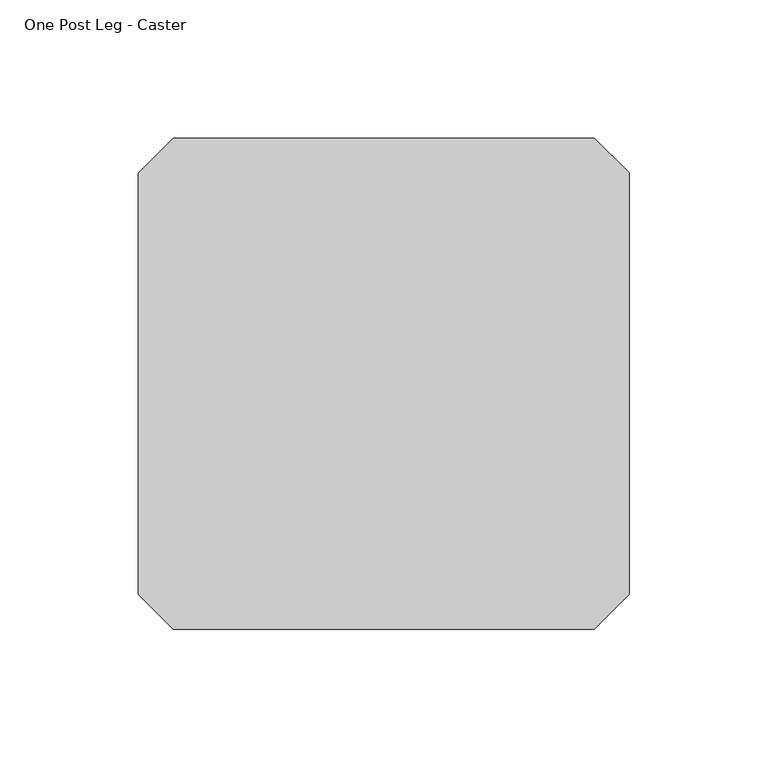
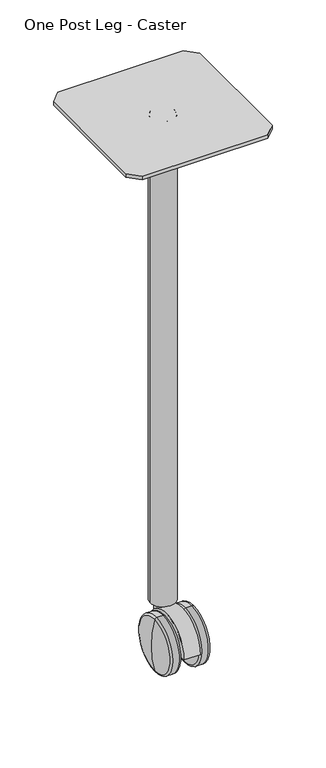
"""IFC4 building model written with IfcOpenShell, lengths in millimetres: furniture geometry, Steelcase - Groupwork - Table Leg - Post - Fixed : One Post Leg - Caster."""

from ifc_helpers import new_model, si_unit, point, frame, frame_2d, origin, place, context, project, spatial, polyline, circle_curve, ellipse_curve, trimmed, segment, composite_curve, outline, extrude, source, transform, mapped, element, save
from ifc_brep_helpers import plane_surface, cylinder_surface, revolved_surface, advanced_brep


def one_post_leg_caster_003eadf5(model_context):
    return source(origin(), model_context, "Body", "SolidModel", [
        extrude(outline(polyline([(88.8999907, -92.0423469), (76.2000028, -104.7423348), (-76.2000028, -104.7423348), (-88.9000032, -92.0423469), (-88.9000032, 60.3576588), (-76.2000028, 73.0576592), (76.2000028, 73.0576592), (88.8999907, 60.4556951), (88.8999907, -92.0423469)])), frame((0.0, 0.0, 690.4379814), z_axis=(0.0, 0.0, 1.0), x_axis=(1.0, 0.0, 0.0)), (0.0, 0.0, 1.0), 4.5060186),
        advanced_brep(
        [(-11.4827204, -39.9411002, 2.2405885), (-11.4827204, -39.9411002, 67.7519755), (-11.4827204, -39.9411002, 34.996282), (-13.6490633, -39.9411002, 0.0742455), (-13.6490633, -39.9411002, 69.9183184), (-21.5027885, -39.9411002, 0.0742455), (-21.5027885, -39.9411002, 69.9183184), (-24.0371277, -39.9411002, 1.9932216), (-24.0371277, -39.9411002, 67.9993423), (-28.027544, -39.9411002, 34.996282)],
        [
            (0, 1, circle_curve(frame((-11.4827204, -39.9411002, 34.996282), z_axis=(1.0, 0.0, 0.0), x_axis=(0.0, 0.0, 1.0)), 32.7556935)),
            (1, 2),
            (2, 0),
            (1, 0, circle_curve(frame((-11.4827204, -39.9411002, 34.996282), z_axis=(1.0, 0.0, 0.0), x_axis=(0.0, 0.0, 1.0)), 32.7556935)),
            (3, 4, circle_curve(frame((-13.6490633, -39.9411002, 34.996282), z_axis=(1.0, 0.0, 0.0), x_axis=(0.0, 0.0, 1.0)), 34.9220364)),
            (4, 1, circle_curve(frame((-13.6490633, -39.9411002, 67.7519755), z_axis=(0.0, 1.0, 0.0), x_axis=(1.0, 0.0, 0.0)), 2.1663429)),
            (0, 3, circle_curve(frame((-13.6490633, -39.9411002, 2.2405885), z_axis=(0.0, 1.0, 0.0), x_axis=(1.0, 0.0, 0.0)), 2.1663429)),
            (4, 3, circle_curve(frame((-13.6490633, -39.9411002, 34.996282), z_axis=(1.0, 0.0, 0.0), x_axis=(0.0, 0.0, 1.0)), 34.9220364)),
            (5, 6, circle_curve(frame((-21.5027885, -39.9411002, 34.996282), z_axis=(1.0, 0.0, 0.0), x_axis=(0.0, 0.0, 1.0)), 34.9220364)),
            (6, 4),
            (3, 5),
            (6, 5, circle_curve(frame((-21.5027885, -39.9411002, 34.996282), z_axis=(1.0, 0.0, 0.0), x_axis=(0.0, 0.0, 1.0)), 34.9220364)),
            (7, 8, circle_curve(frame((-24.0371277, -39.9411002, 34.996282), z_axis=(1.0, 0.0, 0.0), x_axis=(0.0, 0.0, 1.0)), 33.0030604)),
            (8, 6, circle_curve(frame((-21.5027885, -39.9411002, 67.285314), z_axis=(0.0, 1.0, 0.0), x_axis=(1.0, 0.0, 0.0)), 2.6330044)),
            (5, 7, circle_curve(frame((-21.5027885, -39.9411002, 2.7072499), z_axis=(0.0, 1.0, 0.0), x_axis=(1.0, 0.0, 0.0)), 2.6330044)),
            (8, 7, circle_curve(frame((-24.0371277, -39.9411002, 34.996282), z_axis=(1.0, 0.0, 0.0), x_axis=(0.0, 0.0, 1.0)), 33.0030604)),
            (9, 8, circle_curve(frame((80.0645768, -39.9411002, 38.6695822), z_axis=(0.0, 1.0, 0.0), x_axis=(1.0, 0.0, 0.0)), 108.1545178)),
            (7, 9, circle_curve(frame((80.0645768, -39.9411002, 31.3229818), z_axis=(0.0, 1.0, 0.0), x_axis=(1.0, 0.0, 0.0)), 108.1545178)),
        ],
        [
            plane_surface(frame((-11.4827204, -39.9411002, 34.996282), z_axis=(1.0, 0.0, 0.0), x_axis=(0.0, 0.0, 1.0))),
            revolved_surface(trimmed(ellipse_curve(frame((-13.6490633, -39.9411002, 67.7519755), z_axis=(0.0, -1.0, 0.0), x_axis=(1.0, 0.0, 0.0)), 2.1663429, 2.1663429), [point((-11.4827204, -39.9411002, 67.7519755))], [point((-13.6490633, -39.9411002, 69.9183184))], True, "CARTESIAN"), (-26.2760059, -39.9411002, 34.996282), (-1.0, 0.0, 0.0)),
            cylinder_surface(frame((-26.2760059, -39.9411002, 34.996282), z_axis=(-1.0, 0.0, 0.0), x_axis=(0.0, 0.0, 1.0)), 34.9220364),
            revolved_surface(trimmed(ellipse_curve(frame((-21.5027885, -39.9411002, 67.285314), z_axis=(0.0, -1.0, 0.0), x_axis=(1.0, 0.0, 0.0)), 2.6330044, 2.6330044), [point((-21.5027885, -39.9411002, 69.9183184))], [point((-24.0371277, -39.9411002, 67.9993423))], True, "CARTESIAN"), (-26.2760059, -39.9411002, 34.996282), (-1.0, 0.0, 0.0)),
            revolved_surface(trimmed(ellipse_curve(frame((80.0645768, -39.9411002, 38.6695822), z_axis=(0.0, -1.0, 0.0), x_axis=(1.0, 0.0, 0.0)), 108.1545178, 108.1545178), [point((-24.0371277, -39.9411002, 67.9993423))], [point((-28.027544, -39.9411002, 34.996282))], True, "CARTESIAN"), (-26.2760059, -39.9411002, 34.996282), (-1.0, 0.0, 0.0)),
        ],
        [
            (0, [[1, 2, 3]]),
            (0, [[4, -3, -2]]),
            (1, [[5, 6, -1, 7]]),
            (1, [[8, -7, -4, -6]]),
            (2, [[9, 10, -5, 11]]),
            (2, [[12, -11, -8, -10]]),
            (3, [[13, 14, -9, 15]]),
            (3, [[16, -15, -12, -14]]),
            (4, [[17, -13, 18]]),
            (4, [[-18, -16, -17]]),
        ],
    ),
        advanced_brep(
        [(24.0371277, -39.9411002, 1.9932216), (24.0371277, -39.9411002, 67.9993423), (28.027544, -39.9411002, 34.996282), (21.5027885, -39.9411002, 0.0742455), (21.5027885, -39.9411002, 69.9183184), (13.6490633, -39.9411002, 0.0742455), (13.6490633, -39.9411002, 69.9183184), (11.4827204, -39.9411002, 2.2405885), (11.4827204, -39.9411002, 67.7519755), (11.4827204, -39.9411002, 34.996282)],
        [
            (0, 1, circle_curve(frame((24.0371277, -39.9411002, 34.996282), z_axis=(1.0, 0.0, 0.0), x_axis=(0.0, 0.0, 1.0)), 33.0030604)),
            (1, 2, circle_curve(frame((-80.0645768, -39.9411002, 38.6695822), z_axis=(0.0, 1.0, 0.0), x_axis=(-1.0, 0.0, 0.0)), 108.1545178)),
            (2, 0, circle_curve(frame((-80.0645768, -39.9411002, 31.3229818), z_axis=(0.0, 1.0, 0.0), x_axis=(-1.0, 0.0, 0.0)), 108.1545178)),
            (1, 0, circle_curve(frame((24.0371277, -39.9411002, 34.996282), z_axis=(1.0, 0.0, 0.0), x_axis=(0.0, 0.0, 1.0)), 33.0030604)),
            (3, 4, circle_curve(frame((21.5027885, -39.9411002, 34.996282), z_axis=(1.0, 0.0, 0.0), x_axis=(0.0, 0.0, 1.0)), 34.9220364)),
            (4, 1, circle_curve(frame((21.5027885, -39.9411002, 67.285314), z_axis=(0.0, 1.0, 0.0), x_axis=(-1.0, 0.0, 0.0)), 2.6330044)),
            (0, 3, circle_curve(frame((21.5027885, -39.9411002, 2.7072499), z_axis=(0.0, 1.0, 0.0), x_axis=(-1.0, 0.0, 0.0)), 2.6330044)),
            (4, 3, circle_curve(frame((21.5027885, -39.9411002, 34.996282), z_axis=(1.0, 0.0, 0.0), x_axis=(0.0, 0.0, 1.0)), 34.9220364)),
            (5, 6, circle_curve(frame((13.6490633, -39.9411002, 34.996282), z_axis=(1.0, 0.0, 0.0), x_axis=(0.0, 0.0, 1.0)), 34.9220364)),
            (6, 4),
            (3, 5),
            (6, 5, circle_curve(frame((13.6490633, -39.9411002, 34.996282), z_axis=(1.0, 0.0, 0.0), x_axis=(0.0, 0.0, 1.0)), 34.9220364)),
            (7, 8, circle_curve(frame((11.4827204, -39.9411002, 34.996282), z_axis=(1.0, 0.0, 0.0), x_axis=(0.0, 0.0, 1.0)), 32.7556935)),
            (8, 6, circle_curve(frame((13.6490633, -39.9411002, 67.7519755), z_axis=(0.0, 1.0, 0.0), x_axis=(-1.0, 0.0, 0.0)), 2.1663429)),
            (5, 7, circle_curve(frame((13.6490633, -39.9411002, 2.2405885), z_axis=(0.0, 1.0, 0.0), x_axis=(-1.0, 0.0, 0.0)), 2.1663429)),
            (8, 7, circle_curve(frame((11.4827204, -39.9411002, 34.996282), z_axis=(1.0, 0.0, 0.0), x_axis=(0.0, 0.0, 1.0)), 32.7556935)),
            (9, 8),
            (7, 9),
        ],
        [
            revolved_surface(trimmed(ellipse_curve(frame((-80.0645768, -39.9411002, 38.6695822), z_axis=(0.0, -1.0, 0.0), x_axis=(-1.0, 0.0, 0.0)), 108.1545178, 108.1545178), [point((28.027544, -39.9411002, 34.996282))], [point((24.0371277, -39.9411002, 67.9993423))], True, "CARTESIAN"), (-26.2760059, -39.9411002, 34.996282), (-1.0, 0.0, 0.0)),
            revolved_surface(trimmed(ellipse_curve(frame((21.5027885, -39.9411002, 67.285314), z_axis=(0.0, -1.0, 0.0), x_axis=(-1.0, 0.0, 0.0)), 2.6330044, 2.6330044), [point((24.0371277, -39.9411002, 67.9993423))], [point((21.5027885, -39.9411002, 69.9183184))], True, "CARTESIAN"), (-26.2760059, -39.9411002, 34.996282), (-1.0, 0.0, 0.0)),
            cylinder_surface(frame((-26.2760059, -39.9411002, 34.996282), z_axis=(-1.0, 0.0, 0.0), x_axis=(0.0, 0.0, 1.0)), 34.9220364),
            revolved_surface(trimmed(ellipse_curve(frame((13.6490633, -39.9411002, 67.7519755), z_axis=(0.0, -1.0, 0.0), x_axis=(-1.0, 0.0, 0.0)), 2.1663429, 2.1663429), [point((13.6490633, -39.9411002, 69.9183184))], [point((11.4827204, -39.9411002, 67.7519755))], True, "CARTESIAN"), (-26.2760059, -39.9411002, 34.996282), (-1.0, 0.0, 0.0)),
            plane_surface(frame((11.4827204, -39.9411002, 34.996282), z_axis=(-1.0, 0.0, 0.0), x_axis=(0.0, 0.0, 1.0))),
        ],
        [
            (0, [[1, 2, 3]]),
            (0, [[4, -3, -2]]),
            (1, [[5, 6, -1, 7]]),
            (1, [[8, -7, -4, -6]]),
            (2, [[9, 10, -5, 11]]),
            (2, [[12, -11, -8, -10]]),
            (3, [[13, 14, -9, 15]]),
            (3, [[16, -15, -12, -14]]),
            (4, [[17, -13, 18]]),
            (4, [[-18, -16, -17]]),
        ],
    ),
        extrude(outline(composite_curve([segment(trimmed(circle_curve(frame_2d((-39.878, 33.5852125)), 37.5031), [point((-77.3811, 33.5852125))], [point((-2.3749, 33.5852125))], False, "CARTESIAN"), True, "CONTINUOUS"), segment(polyline([(-2.3749, 33.5852125), (-77.3811, 33.5852125)]), True, "CONTINUOUS")], self_intersect=False)), frame((-9.8317204, 0.0, 0.0), z_axis=(1.0, 0.0, 0.0), x_axis=(0.0, 1.0, 0.0)), (0.0, 0.0, 1.0), 19.685),
        advanced_brep(
        [(0.0, -25.7219599, 42.7546125), (0.0, -6.0280401, 42.7546125), (0.0, -15.875, 42.7546125), (0.0, -25.7219599, 93.5546125), (0.0, -6.0280401, 93.5546125), (0.0, -15.875, 93.5546125)],
        [
            (0, 1, circle_curve(frame((0.0, -15.875, 42.7546125), z_axis=(0.0, 0.0, -1.0), x_axis=(0.0, 1.0, 0.0)), 9.8469599)),
            (1, 2),
            (2, 0),
            (1, 0, circle_curve(frame((0.0, -15.875, 42.7546125), z_axis=(0.0, 0.0, -1.0), x_axis=(0.0, 1.0, 0.0)), 9.8469599)),
            (3, 4, circle_curve(frame((0.0, -15.875, 93.5546125), z_axis=(0.0, 0.0, -1.0), x_axis=(0.0, 1.0, 0.0)), 9.8469599)),
            (4, 1),
            (0, 3),
            (4, 3, circle_curve(frame((0.0, -15.875, 93.5546125), z_axis=(0.0, 0.0, -1.0), x_axis=(0.0, 1.0, 0.0)), 9.8469599)),
            (5, 4),
            (3, 5),
        ],
        [
            plane_surface(frame((0.0, -15.875, 42.7546125), z_axis=(0.0, 0.0, -1.0), x_axis=(0.0, 1.0, 0.0))),
            cylinder_surface(frame((0.0, -15.875, 92.8785885), z_axis=(0.0, 0.0, 1.0), x_axis=(0.0, 1.0, 0.0)), 9.8469599),
            plane_surface(frame((0.0, -15.875, 93.5546125), z_axis=(0.0, 0.0, 1.0), x_axis=(0.0, 1.0, 0.0))),
        ],
        [
            (0, [[1, 2, 3]]),
            (0, [[4, -3, -2]]),
            (1, [[5, 6, -1, 7]]),
            (1, [[8, -7, -4, -6]]),
            (2, [[9, -5, 10]]),
            (2, [[-10, -8, -9]]),
        ],
    ),
        extrude(outline(composite_curve([segment(trimmed(circle_curve(frame_2d((0.0, -15.7933259)), 15.24), [point((-15.24, -15.7933259))], [point((15.24, -15.7933259))], False, "CARTESIAN"), True, "CONTINUOUS"), segment(trimmed(circle_curve(frame_2d((0.0, -15.7933259)), 15.24), [point((15.24, -15.7933259))], [point((-15.24, -15.7933259))], False, "CARTESIAN"), True, "CONTINUOUS")], self_intersect=False), holes=[composite_curve([segment(trimmed(circle_curve(frame_2d((0.0, -15.7933259)), 13.7134307), [point((-13.7134307, -15.7933259))], [point((13.7134307, -15.7933259))], True, "CARTESIAN"), True, "CONTINUOUS"), segment(trimmed(circle_curve(frame_2d((0.0, -15.7933259)), 13.7134307), [point((13.7134307, -15.7933259))], [point((-13.7134307, -15.7933259))], True, "CARTESIAN"), True, "CONTINUOUS")], self_intersect=False)]), frame((0.0, 0.0, 71.6852125), z_axis=(0.0, 0.0, 1.0), x_axis=(1.0, 0.0, 0.0)), (0.0, 0.0, 1.0), 623.2587875),
    ])


if __name__ == "__main__":
    model = new_model("IFC4")
    model_context = context("Model", 3, world=origin())
    ifc_project = project(units=[si_unit("LENGTHUNIT", "METRE", prefix="MILLI")], contexts=[model_context])
    site = spatial("IfcSite", under=ifc_project)
    building = spatial("IfcBuilding", under=site)
    placement = place(None, origin())
    one_post_leg_caster_shape = one_post_leg_caster_003eadf5(model_context)
    element("IfcFurniture", 1, ObjectType="Steelcase - Groupwork - Table Leg - Post - Fixed : One Post Leg - Caster", at=placement, inside=building, context=model_context, shape_type="MappedRepresentation", body=[
        mapped(one_post_leg_caster_shape, transform((0.0, 0.0, 0.0), x_axis=(1.0, 0.0, 0.0), y_axis=(0.0, 1.0, 0.0), z_axis=(0.0, 0.0, 1.0))),
    ])
    save(model, "model.ifc")
